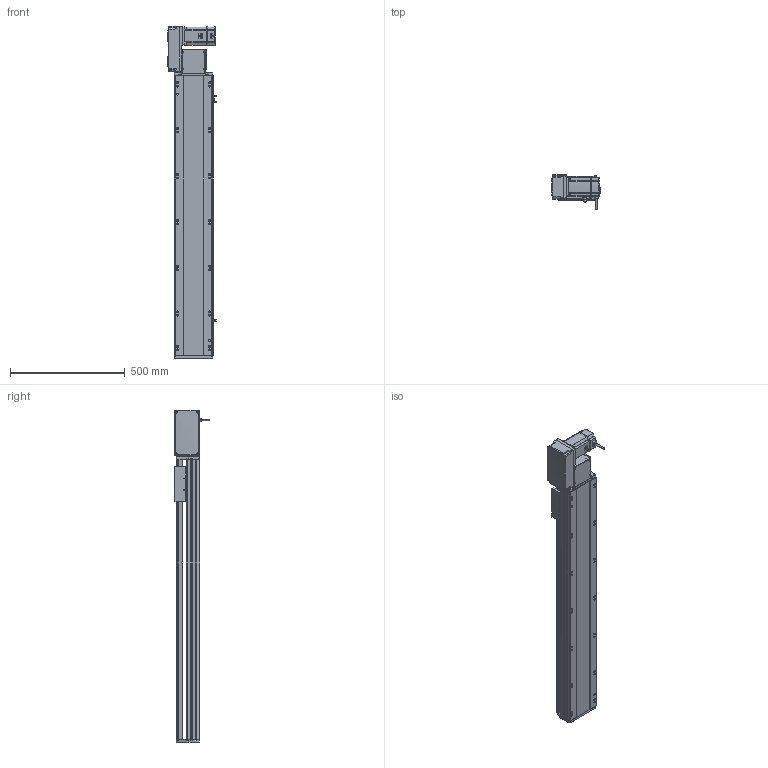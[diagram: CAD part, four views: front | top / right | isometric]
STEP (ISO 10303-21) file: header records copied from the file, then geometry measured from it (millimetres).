
FILE_DESCRIPTION (( 'STEP AP214' ), '1' );
FILE_NAME ('RTB17S-XX-950-L-M75-C4.STEP', '2025-12-12T00:12:57', ( '' ), ( '' ), 'SwSTEP 2.0', 'SolidWorks 2018', '' );
FILE_SCHEMA (( 'AUTOMOTIVE_DESIGN' ));
Length unit declared in the file: millimetre
Products named in the file (15): RTB17-R-011菁釱^RTB17S-XX-XX-L-M75-C4; RTB17S-L-007奻裔^RTB17S-XX-XX-L-M75-C4; 750W萇儂^RTB17S-XX-XX-L-M75-C4; RTB17S-賑釱^RTB17S-XX-XX-L-M75-C4; RTB22S-GY-005P^RTB17S-L-々湍釱蚾饜-750W_RTB17S-XX-XX-L-M75-C4; EE672^RTB17S-XX-XX-L-M75-C4; RTB17S-XX-950-L-M75-C4; RMP17S-L-014-T20-P75--々湍釱^RTB17S-L-々湍釱蚾饜-750W_RTB17S-XX-XX-L-M75-C4; RTB17S-L-001-耜醱啣^RTB17S-XX-XX-L-M75-C4; RTH13-BL-012覜茼え俋离^RTB17S-賑釱_RTB17S-XX-XX-L-M75-C4; RTB22S-GY-008-M75--萇儂啣^RTB17S-L-々湍釱蚾饜-750W_RTB17S-XX-XX-L-M75-C4; RTB22S-GY-017P^RTB17S-L-々湍釱蚾饜-750W_RTB17S-XX-XX-L-M75-C4; RTB17S-L-々湍釱蚾饜-750W^RTB17S-XX-XX-L-M75-C4; RTB22S-GY-018P^RTB17S-L-々湍釱蚾饜-750W_RTB17S-XX-XX-L-M75-C4; RTB17S-L-004-賑釱^RTB17S-賑釱_RTB17S-XX-XX-L-M75-C4
Assembly tree (17 placements, depth 3):
  RTB17S-XX-950-L-M75-C4
    RTB17-R-011菁釱^RTB17S-XX-XX-L-M75-C4
    EE672^RTB17S-XX-XX-L-M75-C4  x3
    RTB17S-L-001-耜醱啣^RTB17S-XX-XX-L-M75-C4
    RTB17S-賑釱^RTB17S-XX-XX-L-M75-C4
      RTB17S-L-004-賑釱^RTB17S-賑釱_RTB17S-XX-XX-L-M75-C4
      RTH13-BL-012覜茼え俋离^RTB17S-賑釱_RTB17S-XX-XX-L-M75-C4
    RTB17S-L-007奻裔^RTB17S-XX-XX-L-M75-C4
    750W萇儂^RTB17S-XX-XX-L-M75-C4
    RTB17S-L-々湍釱蚾饜-750W^RTB17S-XX-XX-L-M75-C4
      RMP17S-L-014-T20-P75--々湍釱^RTB17S-L-々湍釱蚾饜-750W_RTB17S-XX-XX-L-M75-C4
      RTB22S-GY-005P^RTB17S-L-々湍釱蚾饜-750W_RTB17S-XX-XX-L-M75-C4
      RTB22S-GY-017P^RTB17S-L-々湍釱蚾饜-750W_RTB17S-XX-XX-L-M75-C4  x2
      RTB22S-GY-008-M75--萇儂啣^RTB17S-L-々湍釱蚾饜-750W_RTB17S-XX-XX-L-M75-C4
      RTB22S-GY-018P^RTB17S-L-々湍釱蚾饜-750W_RTB17S-XX-XX-L-M75-C4
Bounding box: 210.4 x 152.7 x 1449 mm (x, y, z)
Volume: 11888581.1 mm3; surface area: 2009502.6 mm2
Topology: 17 solids, 17 shells, 2089 faces, 5782 edges, 3734 vertices
Faces by surface type: plane 970, cylinder 703, bspline 294, cone 110, sphere 8, torus 4
Entity records: 58102 total; most frequent: CARTESIAN_POINT 17046, ORIENTED_EDGE 8408, DIRECTION 7862, EDGE_CURVE 4204, AXIS2_PLACEMENT_3D 2754, VERTEX_POINT 2738, VECTOR 2354, LINE 2354
